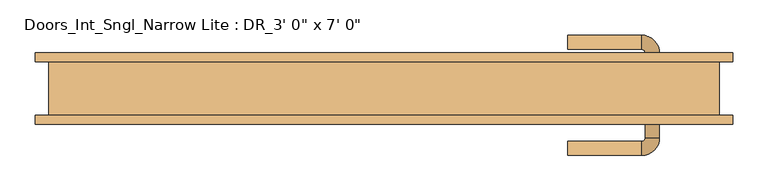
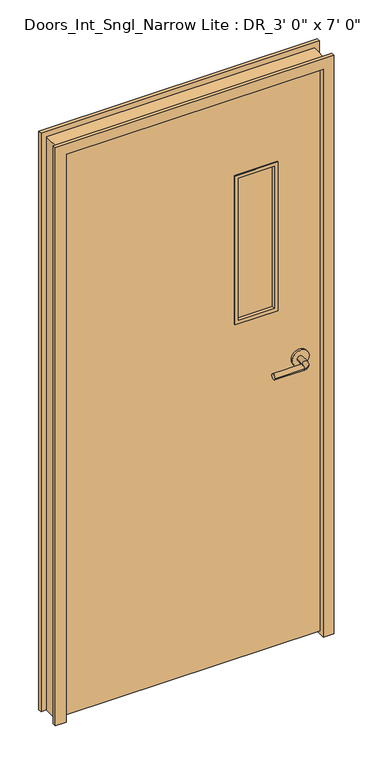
"""IFC4 building model written with IfcOpenShell, lengths in millimetres: door geometry."""

from ifc_helpers import new_model, si_unit, point, frame, frame_2d, origin, place, context, project, spatial, polyline, circle_curve, ellipse_curve, trimmed, segment, composite_curve, outline, extrude, faceted_brep, source, transform, mapped, element, save
from ifc_brep_helpers import plane_surface, cylinder_surface, revolved_surface, advanced_brep


def door_8d669baa(model_context):
    return source(origin(), model_context, "Body", "SolidModel", [
        advanced_brep(
        [(391.0, 20.7, 1066.8), (371.0, 20.7, 1066.8), (371.0, 50.7, 1066.8), (391.0, 50.7, 1066.8), (366.0, 55.7, 1066.8), (366.0, 75.7, 1066.8), (261.0, 75.7, 1066.8), (261.0, 55.7, 1066.8)],
        [
            (0, 1, circle_curve(frame((381.0, 20.7, 1066.8), z_axis=(0.0, -1.0, 0.0), x_axis=(-0.9999999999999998, 0.0, 0.0)), 10.0)),
            (1, 0, circle_curve(frame((381.0, 20.7, 1066.8), z_axis=(0.0, -1.0, 0.0), x_axis=(-0.9999999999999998, 0.0, 0.0)), 10.0)),
            (1, 2),
            (2, 3, circle_curve(frame((381.0, 50.7, 1066.8), z_axis=(0.0, -1.0, 0.0), x_axis=(-0.9999999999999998, 0.0, 0.0)), 10.0)),
            (3, 0),
            (3, 2, circle_curve(frame((381.0, 50.7, 1066.8), z_axis=(0.0, -1.0, 0.0), x_axis=(-0.9999999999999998, 0.0, 0.0)), 10.0)),
            (4, 5, circle_curve(frame((366.0, 65.7, 1066.8), z_axis=(0.9999999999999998, 0.0, 0.0), x_axis=(0.0, -0.9999999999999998, 0.0)), 10.0)),
            (5, 3, circle_curve(frame((366.0, 50.7, 1066.8), z_axis=(0.0, 0.0, -1.0), x_axis=(0.9999999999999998, 0.0, 0.0)), 25.0)),
            (2, 4, circle_curve(frame((366.0, 50.7, 1066.8), z_axis=(0.0, 0.0, 1.0), x_axis=(0.9999999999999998, 0.0, 0.0)), 5.0)),
            (5, 4, circle_curve(frame((366.0, 65.7, 1066.8), z_axis=(0.9999999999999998, 0.0, 0.0), x_axis=(0.0, -0.9999999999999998, 0.0)), 10.0)),
            (6, 7, circle_curve(frame((261.0, 65.7, 1066.8), z_axis=(-1.0, 0.0, 0.0), x_axis=(0.0, -0.9999999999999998, 0.0)), 10.0)),
            (7, 6, circle_curve(frame((261.0, 65.7, 1066.8), z_axis=(-1.0, 0.0, 0.0), x_axis=(0.0, -0.9999999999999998, 0.0)), 10.0)),
            (4, 7),
            (6, 5),
        ],
        [
            plane_surface(frame((381.0, 20.7, 1066.8), z_axis=(0.0, -1.0, 0.0), x_axis=(0.0, 0.0, 1.0))),
            cylinder_surface(frame((381.0, 20.7, 1066.8), z_axis=(0.0, -0.9999999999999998, 0.0), x_axis=(-0.9999999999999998, 0.0, 0.0)), 10.0),
            revolved_surface(trimmed(ellipse_curve(frame((381.0, 50.7, 1066.8), z_axis=(0.0, 0.9999999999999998, 0.0), x_axis=(-0.9999999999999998, 0.0, 0.0)), 10.0, 10.0), [point((391.0, 50.7, 1066.8))], [point((371.0, 50.7, 1066.8))], True, "CARTESIAN"), (366.0, 50.7, 1066.8), (0.0, 0.0, -1.0)),
            revolved_surface(trimmed(ellipse_curve(frame((381.0, 50.7, 1066.8), z_axis=(0.0, 0.9999999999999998, 0.0), x_axis=(-0.9999999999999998, 0.0, 0.0)), 10.0, 10.0), [point((371.0, 50.7, 1066.8))], [point((391.0, 50.7, 1066.8))], True, "CARTESIAN"), (366.0, 50.7, 1066.8), (0.0, 0.0, -1.0)),
            plane_surface(frame((261.0, 65.7, 1066.8), z_axis=(-1.0, 0.0, 0.0), x_axis=(0.0, 0.0, 1.0))),
            cylinder_surface(frame((366.0, 65.7, 1066.8), z_axis=(0.9999999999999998, 0.0, 0.0), x_axis=(0.0, -0.9999999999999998, 0.0)), 10.0),
        ],
        [
            (0, [[1, 2]]),
            (1, [[3, 4, 5, -2]]),
            (1, [[-5, 6, -3, -1]]),
            (2, [[7, 8, -4, 9]]),
            (3, [[10, -9, -6, -8]]),
            (4, [[11, 12]]),
            (5, [[13, -11, 14, -7]]),
            (5, [[-14, -12, -13, -10]]),
        ],
    ),
        extrude(outline(composite_curve([segment(trimmed(circle_curve(frame_2d((1066.8, 383.5)), 30.0), [point((1066.8, 413.5))], [point((1066.8, 353.5))], False, "CARTESIAN"), True, "CONTINUOUS"), segment(trimmed(circle_curve(frame_2d((1066.8, 383.5)), 30.0), [point((1066.8, 353.5))], [point((1066.8, 413.5))], False, "CARTESIAN"), True, "CONTINUOUS")], self_intersect=False)), frame((0.0, 12.7, 0.0), z_axis=(0.0, 1.0, 0.0), x_axis=(0.0, 0.0, 1.0)), (0.0, 0.0, 1.0), 8.0),
        advanced_brep(
        [(391.0, -39.75, 1066.8), (371.0, -39.75, 1066.8), (391.0, -69.75, 1066.8), (371.0, -69.75, 1066.8), (366.0, -74.75, 1066.8), (366.0, -94.75, 1066.8), (261.0, -94.75, 1066.8), (261.0, -74.75, 1066.8)],
        [
            (0, 1, circle_curve(frame((381.0, -39.75, 1066.8), z_axis=(0.0, 1.0, 0.0), x_axis=(-0.9999999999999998, 0.0, 0.0)), 10.0)),
            (1, 0, circle_curve(frame((381.0, -39.75, 1066.8), z_axis=(0.0, 1.0, 0.0), x_axis=(-0.9999999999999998, 0.0, 0.0)), 10.0)),
            (0, 2),
            (2, 3, circle_curve(frame((381.0, -69.75, 1066.8), z_axis=(0.0, 1.0, 0.0), x_axis=(-0.9999999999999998, 0.0, 0.0)), 10.0)),
            (3, 1),
            (3, 2, circle_curve(frame((381.0, -69.75, 1066.8), z_axis=(0.0, 1.0, 0.0), x_axis=(-0.9999999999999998, 0.0, 0.0)), 10.0)),
            (4, 3, circle_curve(frame((366.0, -69.75, 1066.8), z_axis=(0.0, 0.0, 1.0), x_axis=(0.9999999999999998, 0.0, 0.0)), 5.0)),
            (2, 5, circle_curve(frame((366.0, -69.75, 1066.8), z_axis=(0.0, 0.0, -1.0), x_axis=(0.9999999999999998, 0.0, 0.0)), 25.0)),
            (5, 4, circle_curve(frame((366.0, -84.75, 1066.8), z_axis=(0.9999999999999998, 0.0, 0.0), x_axis=(0.0, 0.9999999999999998, 0.0)), 10.0)),
            (4, 5, circle_curve(frame((366.0, -84.75, 1066.8), z_axis=(0.9999999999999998, 0.0, 0.0), x_axis=(0.0, 0.9999999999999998, 0.0)), 10.0)),
            (6, 7, circle_curve(frame((261.0, -84.75, 1066.8), z_axis=(-1.0, 0.0, 0.0), x_axis=(0.0, 0.9999999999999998, 0.0)), 10.0)),
            (7, 6, circle_curve(frame((261.0, -84.75, 1066.8), z_axis=(-1.0, 0.0, 0.0), x_axis=(0.0, 0.9999999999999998, 0.0)), 10.0)),
            (5, 6),
            (7, 4),
        ],
        [
            plane_surface(frame((381.0, -39.75, 1066.8), z_axis=(0.0, 1.0, 0.0), x_axis=(0.0, 0.0, 1.0))),
            cylinder_surface(frame((381.0, -39.75, 1066.8), z_axis=(0.0, 0.9999999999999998, 0.0), x_axis=(-0.9999999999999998, 0.0, 0.0)), 10.0),
            revolved_surface(trimmed(ellipse_curve(frame((381.0, -69.75, 1066.8), z_axis=(0.0, 0.9999999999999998, 0.0), x_axis=(-0.9999999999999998, 0.0, 0.0)), 10.0, 10.0), [point((391.0, -69.75, 1066.8))], [point((371.0, -69.75, 1066.8))], True, "CARTESIAN"), (366.0, -69.75, 1066.8), (0.0, 0.0, -1.0)),
            revolved_surface(trimmed(ellipse_curve(frame((381.0, -69.75, 1066.8), z_axis=(0.0, 0.9999999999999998, 0.0), x_axis=(-0.9999999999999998, 0.0, 0.0)), 10.0, 10.0), [point((371.0, -69.75, 1066.8))], [point((391.0, -69.75, 1066.8))], True, "CARTESIAN"), (366.0, -69.75, 1066.8), (0.0, 0.0, -1.0)),
            plane_surface(frame((261.0, -84.75, 1066.8), z_axis=(-1.0, 0.0, 0.0), x_axis=(0.0, 0.0, 1.0))),
            cylinder_surface(frame((366.0, -84.75, 1066.8), z_axis=(0.9999999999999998, 0.0, 0.0), x_axis=(0.0, 0.9999999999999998, 0.0)), 10.0),
        ],
        [
            (0, [[1, 2]]),
            (1, [[-1, 3, 4, 5]]),
            (1, [[-2, -5, 6, -3]]),
            (2, [[7, -4, 8, 9]]),
            (3, [[-8, -6, -7, 10]]),
            (4, [[11, 12]]),
            (5, [[-9, 13, -12, 14]]),
            (5, [[-10, -14, -11, -13]]),
        ],
    ),
        extrude(outline(composite_curve([segment(trimmed(circle_curve(frame_2d((1066.8, 383.5)), 30.0), [point((1066.8, 413.5))], [point((1066.8, 353.5))], False, "CARTESIAN"), True, "CONTINUOUS"), segment(trimmed(circle_curve(frame_2d((1066.8, 383.5)), 30.0), [point((1066.8, 353.5))], [point((1066.8, 413.5))], False, "CARTESIAN"), True, "CONTINUOUS")], self_intersect=False)), frame((0.0, -39.75, 0.0), z_axis=(0.0, 1.0, 0.0), x_axis=(0.0, 0.0, 1.0)), (0.0, 0.0, 1.0), 8.0),
        extrude(outline(polyline([(292.1, -22.225), (165.1, -22.225), (165.1, 3.175), (292.1, 3.175), (292.1, -22.225)])), frame((0.0, 0.0, 1282.7), z_axis=(0.0, 0.0, 1.0), x_axis=(1.0, 0.0, 0.0)), (0.0, 0.0, 1.0), 533.4),
        extrude(outline(polyline([(1270.0, 152.4), (1270.0, 304.8), (1828.8, 304.8), (1828.8, 152.4), (1270.0, 152.4)]), holes=[polyline([(1282.7, 165.1), (1816.1, 165.1), (1816.1, 292.1), (1282.7, 292.1), (1282.7, 165.1)])]), frame((0.0, -34.925, 0.0), z_axis=(0.0, 1.0, 0.0), x_axis=(0.0, 0.0, 1.0)), (0.0, 0.0, 1.0), 50.8),
        extrude(outline(polyline([(2133.6, 457.2), (2133.6, -457.2), (12.7, -457.2), (12.7, 457.2), (2133.6, 457.2)]), holes=[polyline([(1270.0, 152.4), (1828.8, 152.4), (1828.8, 304.8), (1270.0, 304.8), (1270.0, 152.4)])]), frame((0.0, -31.75, 0.0), z_axis=(0.0, 1.0, 0.0), x_axis=(0.0, 0.0, 1.0)), (0.0, 0.0, 1.0), 44.45),
        faceted_brep([(-457.2, -50.8, 0.0), (-495.3, -50.8, 0.0), (-495.3, -38.1, 0.0), (-476.25, -38.1, 0.0), (-476.25, 38.1, 0.0), (-495.3, 38.1, 0.0), (-495.3, 50.8, 0.0), (-457.2, 50.8, 0.0), (-457.2, -50.8, 2133.6), (457.2, -50.8, 2133.6), (457.2, -50.8, 0.0), (495.3, -50.8, 0.0), (495.3, -50.8, 2171.7), (-495.3, -50.8, 2171.7), (-495.3, -38.1, 2171.7), (495.3, -38.1, 2171.7), (495.3, -38.1, 0.0), (476.25, -38.1, 0.0), (476.25, -38.1, 2152.65), (-476.25, -38.1, 2152.65), (-476.25, 38.1, 2152.65), (476.25, 38.1, 2152.65), (476.25, 38.1, 0.0), (495.3, 38.1, 0.0), (495.3, 38.1, 2171.7), (-495.3, 38.1, 2171.7), (-495.3, 50.8, 2171.7), (495.3, 50.8, 2171.7), (495.3, 50.8, 0.0), (457.2, 50.8, 0.0), (457.2, 50.8, 2133.6), (-457.2, 50.8, 2133.6)], [[[0, 1, 2, 3, 4, 5, 6, 7]], [[1, 0, 8, 9, 10, 11, 12, 13]], [[2, 1, 13, 14]], [[3, 2, 14, 15, 16, 17, 18, 19]], [[4, 3, 19, 20]], [[5, 4, 20, 21, 22, 23, 24, 25]], [[6, 5, 25, 26]], [[7, 6, 26, 27, 28, 29, 30, 31]], [[0, 7, 31, 8]], [[9, 30, 29, 10]], [[10, 29, 28, 23, 22, 17, 16, 11]], [[15, 12, 11, 16]], [[27, 24, 23, 28]], [[21, 18, 17, 22]], [[20, 19, 18, 21]], [[8, 31, 30, 9]], [[14, 13, 12, 15]], [[26, 25, 24, 27]]]),
    ])


if __name__ == "__main__":
    model = new_model("IFC4")
    model_context = context("Model", 3, world=origin())
    ifc_project = project(units=[si_unit("LENGTHUNIT", "METRE", prefix="MILLI")], contexts=[model_context])
    site = spatial("IfcSite", under=ifc_project)
    building = spatial("IfcBuilding", under=site)
    placement = place(None, origin())
    door_shape = door_8d669baa(model_context)
    element("IfcDoor", 1, ObjectType="Doors_Int_Sngl_Narrow Lite : DR_3' 0\" x 7' 0\"", at=placement, inside=building, context=model_context, shape_type="MappedRepresentation", body=[
        mapped(door_shape, transform((0.0, 0.0, 0.0), x_axis=(1.0, 0.0, 0.0), y_axis=(0.0, 1.0, 0.0), z_axis=(0.0, 0.0, 1.0))),
    ])
    save(model, "model.ifc")
